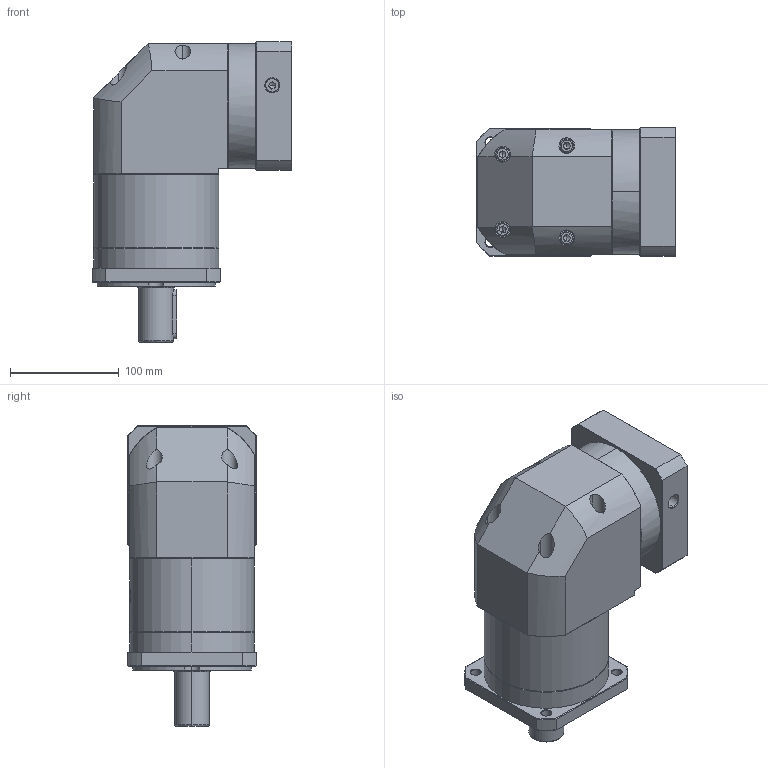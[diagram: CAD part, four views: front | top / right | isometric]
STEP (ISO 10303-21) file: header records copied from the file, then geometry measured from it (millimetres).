
FILE_DESCRIPTION (( 'STEP AP214' ), '1' );
FILE_NAME ('ZFR120A-D32-L2-P2-24-95-115-M6.step', '2023-08-27T08:09:59', ( '' ), ( '' ), 'SwSTEP 2.0', 'SolidWorks 2016', '' );
FILE_SCHEMA (( 'AUTOMOTIVE_DESIGN' ));
Length unit declared in the file: millimetre
Products named in the file (1): ZFR120A-D32-L2-P2-24-95-115-M6
Bounding box: 183.9 x 118 x 276.5 mm (x, y, z)
Volume: 3107503.4 mm3; surface area: 246667 mm2
Topology: 6 solids, 6 shells, 2252 faces, 5930 edges, 3782 vertices
Faces by surface type: plane 1060, bspline 428, cylinder 419, cone 337, torus 8
Entity records: 124633 total; most frequent: CARTESIAN_POINT 49751, ORIENTED_EDGE 11800, DIRECTION 8554, EDGE_CURVE 5900, VERTEX_POINT 3782, LINE 3138, VECTOR 3138, AXIS2_PLACEMENT_3D 2708
